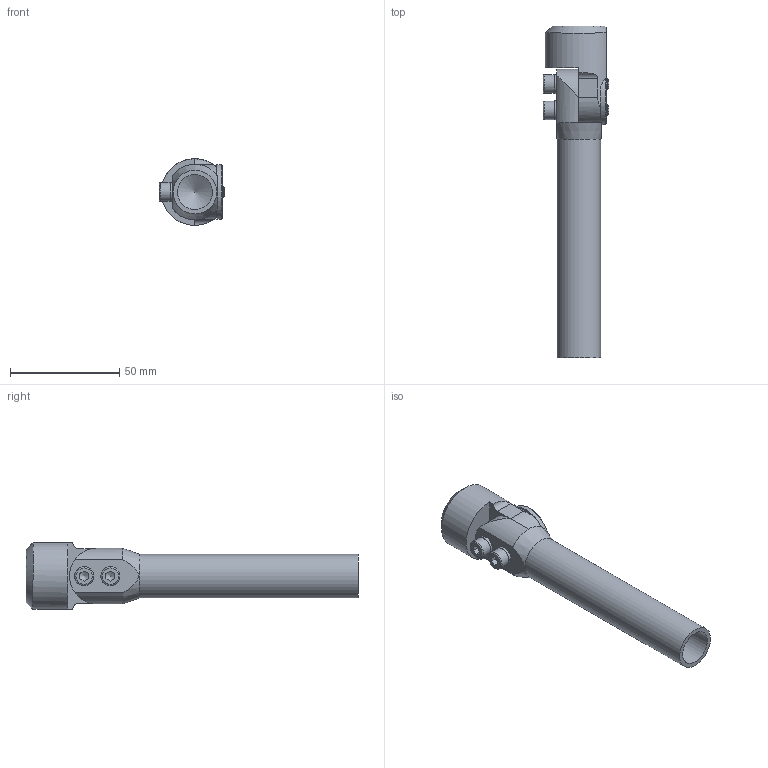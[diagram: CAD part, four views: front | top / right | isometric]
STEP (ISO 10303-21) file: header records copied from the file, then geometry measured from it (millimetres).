
FILE_DESCRIPTION(/* description */ ('Elbow Vacuum Cup Gripper Arm'),/* implementation_level */ '2;1');
FILE_NAME(/* name */ 'EVGA-20-14-18-100.STEP',/* time_stamp */ '2026-02-10T14:26:53-05:00',/* author */ ('Design2'),/* organization */ ('CCS Design LLC'),/* preprocessor_version */ 'ST-DEVELOPER v20',/* originating_system */ 'Autodesk Inventor 2025',/* authorisation */ '');
FILE_SCHEMA (('AUTOMOTIVE_DESIGN { 1 0 10303 214 3 1 1 }'));
Length unit declared in the file: inch
Products named in the file (6): EVGA-20-14-18-100; M-EGA-20-100-S; M-EGA-20-I; M-EVGA-14-18-H; ANSI B18.3.1M - M5x0.8 x 25; ASME B18.21.2M - 5
Assembly tree (7 placements, depth 2):
  EVGA-20-14-18-100
    M-EGA-20-100-S
    M-EGA-20-I
    M-EVGA-14-18-H
    ANSI B18.3.1M - M5x0.8 x 25  x2
    ASME B18.21.2M - 5  x2
Bounding box: 30 x 151.88 x 30.53 mm (x, y, z)
Volume: 38083.4 mm3; surface area: 23847.5 mm2
Topology: 7 solids, 7 shells, 89 faces, 207 edges, 136 vertices
Faces by surface type: plane 43, cylinder 29, cone 13, torus 4
Full cylindrical faces by diameter (mm): 4.14 x2, 5 x2, 5.512 x2, 8.5 x2, 8.56 x1, 11.455 x1, 16 x1, 20 x4, 25 x1
Entity records: 2357 total; most frequent: CARTESIAN_POINT 520, DIRECTION 366, ORIENTED_EDGE 314, EDGE_CURVE 157, AXIS2_PLACEMENT_3D 152, VERTEX_POINT 104, EDGE_LOOP 85, FACE_OUTER_BOUND 68
